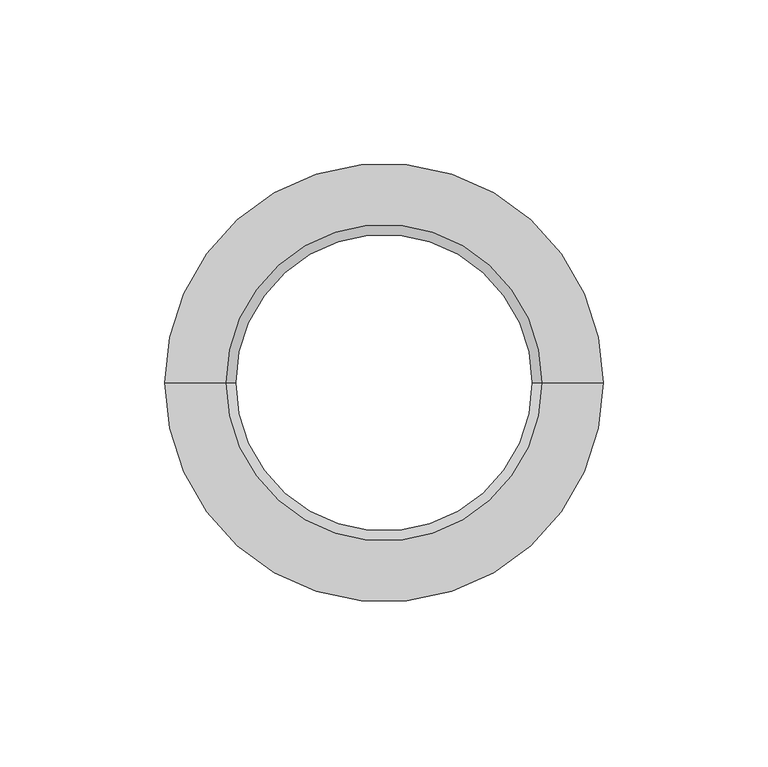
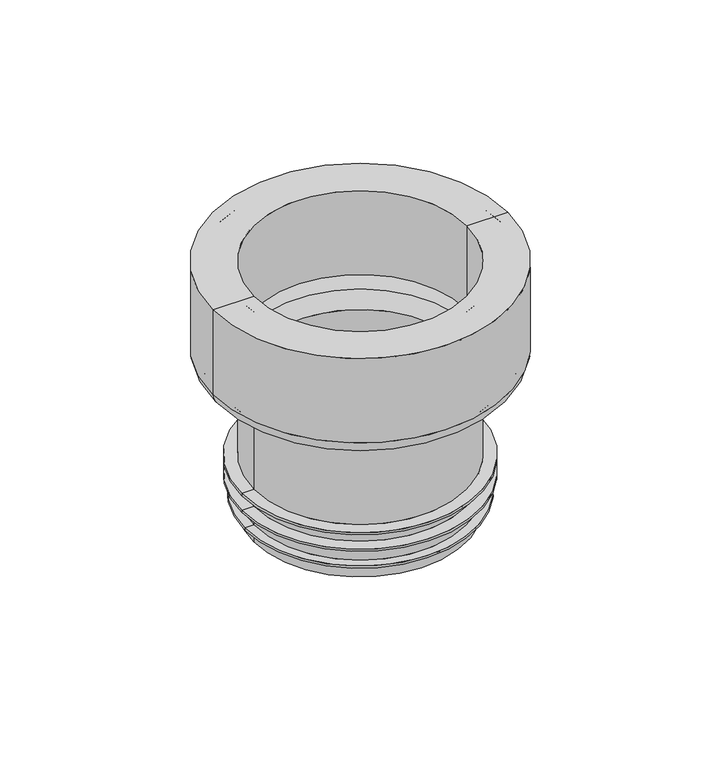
"""IFC4 building model written with IfcOpenShell, lengths in millimetres: sanitary terminal geometry, RSen_52_PIF_UN_closet connector no.6 w_wisa : closet connector_wisa_no 6 w white."""

from ifc_helpers import new_model, si_unit, point, frame, origin, origin_with_axes, place, context, project, spatial, polyline, circle_curve, ellipse_curve, trimmed, source, transform, mapped, element, save
from ifc_brep_helpers import plane_surface, cylinder_surface, revolved_surface, advanced_brep


def sanitary_terminal_0b93c952(model_context):
    return source(origin(), model_context, "Body", "AdvancedBrep", [
        advanced_brep(
        [(-52.0, 0.0, -110.0), (52.0, 0.0, -110.0), (48.0, 0.0, -110.0), (-48.0, 0.0, -110.0), (-52.0, 0.0, -109.0), (52.0, 0.0, -109.0), (-48.0, 0.0, -109.0), (48.0, 0.0, -109.0), (-48.0, 0.0, -101.0), (48.0, 0.0, -101.0), (-53.5, 0.0, -101.0), (53.5, 0.0, -101.0), (-53.5, 0.0, -100.0363869), (53.5, 0.0, -100.0363869), (-48.0, 0.0, -100.0363869), (48.0, 0.0, -100.0363869), (-48.0, 0.0, -93.0363869), (48.0, 0.0, -93.0363869), (-53.5, 0.0, -93.0363869), (53.5, 0.0, -93.0363869), (-53.5, 0.0, -92.0409026), (53.5, 0.0, -92.0409026), (-48.0, 0.0, -92.0409026), (48.0, 0.0, -92.0409026), (-48.0, 0.0, -54.6145387), (48.0, 0.0, -54.6145387), (-66.5, 0.0, 0.0), (66.5, 0.0, 0.0), (66.5, 0.0, -40.1788064), (-66.5, 0.0, -40.1788064), (-48.0, 0.0, 0.0), (48.0, 0.0, 0.0), (-48.0, 0.0, -40.0), (48.0, 0.0, -40.0), (-48.0, 0.0, -117.0), (48.0, 0.0, -117.0), (45.0, 0.0, -117.0), (-45.0, 0.0, -117.0), (-51.0, 0.0, -40.0), (51.0, 0.0, -40.0), (-51.0, 0.0, -4.5), (51.0, 0.0, -4.5), (-52.5, 0.0, -3.0), (52.5, 0.0, -3.0), (-62.0, 0.0, -3.0), (62.0, 0.0, -3.0), (-63.5, 0.0, -4.5), (63.5, 0.0, -4.5), (-63.5, 0.0, -40.1788064), (63.5, 0.0, -40.1788064), (45.0, 0.0, -54.6145387), (-45.0, 0.0, -54.6145387), (-50.6319194, 0.0, -50.8557682), (50.6319194, 0.0, -50.8557682), (-61.894141, 0.0, -46.7566547), (61.894141, 0.0, -46.7566547), (-60.8680806, 0.0, -43.9375769), (60.8680806, 0.0, -43.9375769), (-49.605859, 0.0, -48.0366903), (49.605859, 0.0, -48.0366903)],
        [
            (0, 1, circle_curve(frame((0.0, 0.0, -110.0), z_axis=(0.0, 0.0, -1.0), x_axis=(1.0, 0.0, 0.0)), 52.0)),
            (1, 2),
            (2, 3, circle_curve(frame((0.0, 0.0, -110.0), z_axis=(0.0, 0.0, 1.0), x_axis=(1.0, 0.0, 0.0)), 48.0)),
            (3, 0),
            (1, 0, circle_curve(frame((0.0, 0.0, -110.0), z_axis=(0.0, 0.0, -1.0), x_axis=(1.0, 0.0, 0.0)), 52.0)),
            (3, 2, circle_curve(frame((0.0, 0.0, -110.0), z_axis=(0.0, 0.0, 1.0), x_axis=(1.0, 0.0, 0.0)), 48.0)),
            (4, 5, circle_curve(frame((0.0, 0.0, -109.0), z_axis=(0.0, 0.0, -1.0), x_axis=(1.0, 0.0, 0.0)), 52.0)),
            (5, 1),
            (0, 4),
            (5, 4, circle_curve(frame((0.0, 0.0, -109.0), z_axis=(0.0, 0.0, -1.0), x_axis=(1.0, 0.0, 0.0)), 52.0)),
            (6, 7, circle_curve(frame((0.0, 0.0, -109.0), z_axis=(0.0, 0.0, -1.0), x_axis=(1.0, 0.0, 0.0)), 48.0)),
            (7, 5),
            (4, 6),
            (7, 6, circle_curve(frame((0.0, 0.0, -109.0), z_axis=(0.0, 0.0, -1.0), x_axis=(1.0, 0.0, 0.0)), 48.0)),
            (8, 9, circle_curve(frame((0.0, 0.0, -101.0), z_axis=(0.0, 0.0, -1.0), x_axis=(1.0, 0.0, 0.0)), 48.0)),
            (9, 7),
            (6, 8),
            (9, 8, circle_curve(frame((0.0, 0.0, -101.0), z_axis=(0.0, 0.0, -1.0), x_axis=(1.0, 0.0, 0.0)), 48.0)),
            (10, 11, circle_curve(frame((0.0, 0.0, -101.0), z_axis=(0.0, 0.0, -1.0), x_axis=(1.0, 0.0, 0.0)), 53.5)),
            (11, 9),
            (8, 10),
            (11, 10, circle_curve(frame((0.0, 0.0, -101.0), z_axis=(0.0, 0.0, -1.0), x_axis=(1.0, 0.0, 0.0)), 53.5)),
            (12, 13, circle_curve(frame((0.0, 0.0, -100.0363869), z_axis=(0.0, 0.0, -1.0), x_axis=(1.0, 0.0, 0.0)), 53.5)),
            (13, 11),
            (10, 12),
            (13, 12, circle_curve(frame((0.0, 0.0, -100.0363869), z_axis=(0.0, 0.0, -1.0), x_axis=(1.0, 0.0, 0.0)), 53.5)),
            (14, 15, circle_curve(frame((0.0, 0.0, -100.0363869), z_axis=(0.0, 0.0, -1.0), x_axis=(1.0, 0.0, 0.0)), 48.0)),
            (15, 13),
            (12, 14),
            (15, 14, circle_curve(frame((0.0, 0.0, -100.0363869), z_axis=(0.0, 0.0, -1.0), x_axis=(1.0, 0.0, 0.0)), 48.0)),
            (16, 17, circle_curve(frame((0.0, 0.0, -93.0363869), z_axis=(0.0, 0.0, -1.0), x_axis=(1.0, 0.0, 0.0)), 48.0)),
            (17, 15),
            (14, 16),
            (17, 16, circle_curve(frame((0.0, 0.0, -93.0363869), z_axis=(0.0, 0.0, -1.0), x_axis=(1.0, 0.0, 0.0)), 48.0)),
            (18, 19, circle_curve(frame((0.0, 0.0, -93.0363869), z_axis=(0.0, 0.0, -1.0), x_axis=(1.0, 0.0, 0.0)), 53.5)),
            (19, 17),
            (16, 18),
            (19, 18, circle_curve(frame((0.0, 0.0, -93.0363869), z_axis=(0.0, 0.0, -1.0), x_axis=(1.0, 0.0, 0.0)), 53.5)),
            (20, 21, circle_curve(frame((0.0, 0.0, -92.0409026), z_axis=(0.0, 0.0, -1.0), x_axis=(1.0, 0.0, 0.0)), 53.5)),
            (21, 19),
            (18, 20),
            (21, 20, circle_curve(frame((0.0, 0.0, -92.0409026), z_axis=(0.0, 0.0, -1.0), x_axis=(1.0, 0.0, 0.0)), 53.5)),
            (22, 23, circle_curve(frame((0.0, 0.0, -92.0409026), z_axis=(0.0, 0.0, -1.0), x_axis=(1.0, 0.0, 0.0)), 48.0)),
            (23, 21),
            (20, 22),
            (23, 22, circle_curve(frame((0.0, 0.0, -92.0409026), z_axis=(0.0, 0.0, -1.0), x_axis=(1.0, 0.0, 0.0)), 48.0)),
            (24, 25, circle_curve(frame((0.0, 0.0, -54.6145387), z_axis=(0.0, 0.0, -1.0), x_axis=(1.0, 0.0, 0.0)), 48.0)),
            (25, 23),
            (22, 24),
            (25, 24, circle_curve(frame((0.0, 0.0, -54.6145387), z_axis=(0.0, 0.0, -1.0), x_axis=(1.0, 0.0, 0.0)), 48.0)),
            (26, 27, circle_curve(frame((0.0, 0.0, 0.0), z_axis=(0.0, 0.0, -1.0), x_axis=(1.0, 0.0, 0.0)), 66.5)),
            (27, 28),
            (28, 29, circle_curve(frame((0.0, 0.0, -40.1788064), z_axis=(0.0, 0.0, 1.0), x_axis=(1.0, 0.0, 0.0)), 66.5)),
            (29, 26),
            (27, 26, circle_curve(frame((0.0, 0.0, 0.0), z_axis=(0.0, 0.0, -1.0), x_axis=(1.0, 0.0, 0.0)), 66.5)),
            (29, 28, circle_curve(frame((0.0, 0.0, -40.1788064), z_axis=(0.0, 0.0, 1.0), x_axis=(1.0, 0.0, 0.0)), 66.5)),
            (30, 31, circle_curve(frame((0.0, 0.0, 0.0), z_axis=(0.0, 0.0, -1.0), x_axis=(1.0, 0.0, 0.0)), 48.0)),
            (31, 27),
            (26, 30),
            (31, 30, circle_curve(frame((0.0, 0.0, 0.0), z_axis=(0.0, 0.0, -1.0), x_axis=(1.0, 0.0, 0.0)), 48.0)),
            (32, 33, circle_curve(frame((0.0, 0.0, -40.0), z_axis=(0.0, 0.0, -1.0), x_axis=(1.0, 0.0, 0.0)), 48.0)),
            (33, 31),
            (30, 32),
            (33, 32, circle_curve(frame((0.0, 0.0, -40.0), z_axis=(0.0, 0.0, -1.0), x_axis=(1.0, 0.0, 0.0)), 48.0)),
            (34, 35, circle_curve(frame((0.0, 0.0, -117.0), z_axis=(0.0, 0.0, -1.0), x_axis=(1.0, 0.0, 0.0)), 48.0)),
            (35, 36),
            (36, 37, circle_curve(frame((0.0, 0.0, -117.0), z_axis=(0.0, 0.0, 1.0), x_axis=(1.0, 0.0, 0.0)), 45.0)),
            (37, 34),
            (35, 34, circle_curve(frame((0.0, 0.0, -117.0), z_axis=(0.0, 0.0, -1.0), x_axis=(1.0, 0.0, 0.0)), 48.0)),
            (37, 36, circle_curve(frame((0.0, 0.0, -117.0), z_axis=(0.0, 0.0, 1.0), x_axis=(1.0, 0.0, 0.0)), 45.0)),
            (2, 35),
            (34, 3),
            (38, 39, circle_curve(frame((0.0, 0.0, -40.0), z_axis=(0.0, 0.0, -1.0), x_axis=(1.0, 0.0, 0.0)), 51.0)),
            (39, 33),
            (32, 38),
            (39, 38, circle_curve(frame((0.0, 0.0, -40.0), z_axis=(0.0, 0.0, -1.0), x_axis=(1.0, 0.0, 0.0)), 51.0)),
            (40, 41, circle_curve(frame((0.0, 0.0, -4.5), z_axis=(0.0, 0.0, -1.0), x_axis=(1.0, 0.0, 0.0)), 51.0)),
            (41, 39),
            (38, 40),
            (41, 40, circle_curve(frame((0.0, 0.0, -4.5), z_axis=(0.0, 0.0, -1.0), x_axis=(1.0, 0.0, 0.0)), 51.0)),
            (42, 43, circle_curve(frame((0.0, 0.0, -3.0), z_axis=(0.0, 0.0, -1.0), x_axis=(1.0, 0.0, 0.0)), 52.5)),
            (43, 41, circle_curve(frame((52.5, 0.0, -4.5), z_axis=(0.0, -1.0, 0.0), x_axis=(1.0, 0.0, 0.0)), 1.5)),
            (40, 42, circle_curve(frame((-52.5, 0.0, -4.5), z_axis=(0.0, -1.0, 0.0), x_axis=(-1.0, 0.0, 0.0)), 1.5)),
            (43, 42, circle_curve(frame((0.0, 0.0, -3.0), z_axis=(0.0, 0.0, -1.0), x_axis=(1.0, 0.0, 0.0)), 52.5)),
            (44, 45, circle_curve(frame((0.0, 0.0, -3.0), z_axis=(0.0, 0.0, -1.0), x_axis=(1.0, 0.0, 0.0)), 62.0)),
            (45, 43),
            (42, 44),
            (45, 44, circle_curve(frame((0.0, 0.0, -3.0), z_axis=(0.0, 0.0, -1.0), x_axis=(1.0, 0.0, 0.0)), 62.0)),
            (46, 47, circle_curve(frame((0.0, 0.0, -4.5), z_axis=(0.0, 0.0, -1.0), x_axis=(1.0, 0.0, 0.0)), 63.5)),
            (47, 45, circle_curve(frame((62.0, 0.0, -4.5), z_axis=(0.0, -1.0, 0.0), x_axis=(1.0, 0.0, 0.0)), 1.5)),
            (44, 46, circle_curve(frame((-62.0, 0.0, -4.5), z_axis=(0.0, -1.0, 0.0), x_axis=(-1.0, 0.0, 0.0)), 1.5)),
            (47, 46, circle_curve(frame((0.0, 0.0, -4.5), z_axis=(0.0, 0.0, -1.0), x_axis=(1.0, 0.0, 0.0)), 63.5)),
            (48, 49, circle_curve(frame((0.0, 0.0, -40.1788064), z_axis=(0.0, 0.0, -1.0), x_axis=(1.0, 0.0, 0.0)), 63.5)),
            (49, 47),
            (46, 48),
            (49, 48, circle_curve(frame((0.0, 0.0, -40.1788064), z_axis=(0.0, 0.0, -1.0), x_axis=(1.0, 0.0, 0.0)), 63.5)),
            (36, 50),
            (50, 51, circle_curve(frame((0.0, 0.0, -54.6145387), z_axis=(0.0, 0.0, 1.0), x_axis=(1.0, 0.0, 0.0)), 45.0)),
            (51, 37),
            (51, 50, circle_curve(frame((0.0, 0.0, -54.6145387), z_axis=(0.0, 0.0, 1.0), x_axis=(1.0, 0.0, 0.0)), 45.0)),
            (52, 53, circle_curve(frame((0.0, 0.0, -50.8557682), z_axis=(0.0, 0.0, -1.0), x_axis=(1.0, 0.0, 0.0)), 50.6319194)),
            (53, 25, circle_curve(frame((52.0, 0.0, -54.6145387), z_axis=(0.0, -1.0, 0.0), x_axis=(1.0, 0.0, 0.0)), 4.0)),
            (24, 52, circle_curve(frame((-52.0, 0.0, -54.6145387), z_axis=(0.0, -1.0, 0.0), x_axis=(-1.0, 0.0, 0.0)), 4.0)),
            (53, 52, circle_curve(frame((0.0, 0.0, -50.8557682), z_axis=(0.0, 0.0, -1.0), x_axis=(1.0, 0.0, 0.0)), 50.6319194)),
            (54, 55, circle_curve(frame((0.0, 0.0, -46.7566547), z_axis=(0.0, 0.0, -1.0), x_axis=(1.0, 0.0, 0.0)), 61.894141)),
            (55, 53),
            (52, 54),
            (55, 54, circle_curve(frame((0.0, 0.0, -46.7566547), z_axis=(0.0, 0.0, -1.0), x_axis=(1.0, 0.0, 0.0)), 61.894141)),
            (28, 55, circle_curve(frame((59.5, 0.0, -40.1788064), z_axis=(0.0, 1.0, 0.0), x_axis=(1.0, 0.0, 0.0)), 7.0)),
            (54, 29, circle_curve(frame((-59.5, 0.0, -40.1788064), z_axis=(0.0, 1.0, 0.0), x_axis=(-1.0, 0.0, 0.0)), 7.0)),
            (56, 57, circle_curve(frame((0.0, 0.0, -43.9375769), z_axis=(0.0, 0.0, -1.0), x_axis=(1.0, 0.0, 0.0)), 60.8680806)),
            (57, 49, circle_curve(frame((59.5, 0.0, -40.1788064), z_axis=(0.0, -1.0, 0.0), x_axis=(1.0, 0.0, 0.0)), 4.0)),
            (48, 56, circle_curve(frame((-59.5, 0.0, -40.1788064), z_axis=(0.0, -1.0, 0.0), x_axis=(-1.0, 0.0, 0.0)), 4.0)),
            (57, 56, circle_curve(frame((0.0, 0.0, -43.9375769), z_axis=(0.0, 0.0, -1.0), x_axis=(1.0, 0.0, 0.0)), 60.8680806)),
            (58, 59, circle_curve(frame((0.0, 0.0, -48.0366903), z_axis=(0.0, 0.0, -1.0), x_axis=(1.0, 0.0, 0.0)), 49.605859)),
            (59, 57),
            (56, 58),
            (59, 58, circle_curve(frame((0.0, 0.0, -48.0366903), z_axis=(0.0, 0.0, -1.0), x_axis=(1.0, 0.0, 0.0)), 49.605859)),
            (50, 59, circle_curve(frame((52.0, 0.0, -54.6145387), z_axis=(0.0, 1.0, 0.0), x_axis=(1.0, 0.0, 0.0)), 7.0)),
            (58, 51, circle_curve(frame((-52.0, 0.0, -54.6145387), z_axis=(0.0, 1.0, 0.0), x_axis=(-1.0, 0.0, 0.0)), 7.0)),
        ],
        [
            plane_surface(frame((0.0, 0.0, -110.0), z_axis=(0.0, 0.0, -1.0), x_axis=(1.0, 0.0, 0.0))),
            cylinder_surface(frame((0.0, 0.0, 150.0), z_axis=(0.0, 0.0, 1.0), x_axis=(1.0, 0.0, 0.0)), 52.0),
            plane_surface(frame((0.0, 0.0, -109.0), z_axis=(0.0, 0.0, 1.0), x_axis=(1.0, 0.0, 0.0))),
            cylinder_surface(frame((0.0, 0.0, 150.0), z_axis=(0.0, 0.0, 1.0), x_axis=(1.0, 0.0, 0.0)), 48.0),
            plane_surface(frame((0.0, 0.0, -101.0), z_axis=(0.0, 0.0, -1.0), x_axis=(1.0, 0.0, 0.0))),
            cylinder_surface(frame((0.0, 0.0, 150.0), z_axis=(0.0, 0.0, 1.0), x_axis=(1.0, 0.0, 0.0)), 53.5),
            plane_surface(frame((0.0, 0.0, -100.0363869), z_axis=(0.0, 0.0, 1.0), x_axis=(1.0, 0.0, 0.0))),
            plane_surface(frame((0.0, 0.0, -93.0363869), z_axis=(0.0, 0.0, -1.0), x_axis=(1.0, 0.0, 0.0))),
            plane_surface(frame((0.0, 0.0, -92.0409026), z_axis=(0.0, 0.0, 1.0), x_axis=(1.0, 0.0, 0.0))),
            cylinder_surface(frame((0.0, 0.0, 150.0), z_axis=(0.0, 0.0, 1.0), x_axis=(1.0, 0.0, 0.0)), 66.5),
            plane_surface(origin_with_axes()),
            revolved_surface(polyline([(48.0, 0.0, 0.0), (48.0, 0.0, -40.0)]), (0.0, 0.0, 150.0), (0.0, 0.0, 1.0)),
            plane_surface(frame((0.0, 0.0, -117.0), z_axis=(0.0, 0.0, -1.0), x_axis=(1.0, 0.0, 0.0))),
            plane_surface(frame((0.0, 0.0, -40.0), z_axis=(0.0, 0.0, -1.0), x_axis=(1.0, 0.0, 0.0))),
            cylinder_surface(frame((0.0, 0.0, 150.0), z_axis=(0.0, 0.0, 1.0), x_axis=(1.0, 0.0, 0.0)), 51.0),
            revolved_surface(trimmed(ellipse_curve(frame((52.5, 0.0, -4.5), z_axis=(0.0, 1.0, 0.0), x_axis=(1.0, 0.0, 0.0)), 1.5, 1.5), [point((51.0, 0.0, -4.5))], [point((52.5, 0.0, -3.0))], True, "CARTESIAN"), (0.0, 0.0, 150.0), (0.0, 0.0, 1.0)),
            plane_surface(frame((0.0, 0.0, -3.0), z_axis=(0.0, 0.0, -1.0), x_axis=(1.0, 0.0, 0.0))),
            revolved_surface(trimmed(ellipse_curve(frame((62.0, 0.0, -4.5), z_axis=(0.0, 1.0, 0.0), x_axis=(1.0, 0.0, 0.0)), 1.5, 1.5), [point((62.0, 0.0, -3.0))], [point((63.5, 0.0, -4.5))], True, "CARTESIAN"), (0.0, 0.0, 150.0), (0.0, 0.0, 1.0)),
            revolved_surface(polyline([(63.5, 0.0, -4.5), (63.5, 0.0, -40.178806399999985)]), (0.0, 0.0, 150.0), (0.0, 0.0, 1.0)),
            revolved_surface(polyline([(45.0, 0.0, -54.6145387), (45.0, 0.0, -117.0)]), (0.0, 0.0, 150.0), (0.0, 0.0, 1.0)),
            revolved_surface(trimmed(ellipse_curve(frame((52.0, 0.0, -54.6145387), z_axis=(0.0, 1.0, 0.0), x_axis=(1.0, 0.0, 0.0)), 4.0, 4.0), [point((48.0, 0.0, -54.6145387))], [point((50.6319194, 0.0, -50.8557682))], True, "CARTESIAN"), (0.0, 0.0, 150.0), (0.0, 0.0, 1.0)),
            revolved_surface(polyline([(50.6319194, 0.0, -50.8557682), (61.894141, 0.0, -46.7566547)]), (0.0, 0.0, 150.0), (0.0, 0.0, 1.0)),
            revolved_surface(trimmed(ellipse_curve(frame((59.5, 0.0, -40.1788064), z_axis=(0.0, -1.0, 0.0), x_axis=(1.0, 0.0, 0.0)), 7.0, 7.0), [point((61.894141, 0.0, -46.7566547))], [point((66.5, 0.0, -40.1788064))], True, "CARTESIAN"), (0.0, 0.0, 150.0), (0.0, 0.0, 1.0)),
            revolved_surface(trimmed(ellipse_curve(frame((59.5, 0.0, -40.1788064), z_axis=(0.0, 1.0, 0.0), x_axis=(1.0, 0.0, 0.0)), 4.0, 4.0), [point((63.5, 0.0, -40.1788064))], [point((60.8680806, 0.0, -43.9375769))], True, "CARTESIAN"), (0.0, 0.0, 150.0), (0.0, 0.0, 1.0)),
            revolved_surface(polyline([(60.8680806, 0.0, -43.9375769), (49.605859, 0.0, -48.0366903)]), (0.0, 0.0, 150.0), (0.0, 0.0, 1.0)),
            revolved_surface(trimmed(ellipse_curve(frame((52.0, 0.0, -54.6145387), z_axis=(0.0, -1.0, 0.0), x_axis=(1.0, 0.0, 0.0)), 7.0, 7.0), [point((49.605859, 0.0, -48.0366903))], [point((45.0, 0.0, -54.6145387))], True, "CARTESIAN"), (0.0, 0.0, 150.0), (0.0, 0.0, 1.0)),
        ],
        [
            (0, [[1, 2, 3, 4]]),
            (0, [[5, -4, 6, -2]]),
            (1, [[7, 8, -1, 9]]),
            (1, [[10, -9, -5, -8]]),
            (2, [[11, 12, -7, 13]]),
            (2, [[14, -13, -10, -12]]),
            (3, [[15, 16, -11, 17]]),
            (3, [[18, -17, -14, -16]]),
            (4, [[19, 20, -15, 21]]),
            (4, [[22, -21, -18, -20]]),
            (5, [[23, 24, -19, 25]]),
            (5, [[26, -25, -22, -24]]),
            (6, [[27, 28, -23, 29]]),
            (6, [[30, -29, -26, -28]]),
            (3, [[31, 32, -27, 33]]),
            (3, [[34, -33, -30, -32]]),
            (7, [[35, 36, -31, 37]]),
            (7, [[38, -37, -34, -36]]),
            (5, [[39, 40, -35, 41]]),
            (5, [[42, -41, -38, -40]]),
            (8, [[43, 44, -39, 45]]),
            (8, [[46, -45, -42, -44]]),
            (3, [[47, 48, -43, 49]]),
            (3, [[50, -49, -46, -48]]),
            (9, [[51, 52, 53, 54]]),
            (9, [[55, -54, 56, -52]]),
            (10, [[57, 58, -51, 59]]),
            (10, [[60, -59, -55, -58]]),
            (11, [[61, 62, -57, 63]]),
            (11, [[64, -63, -60, -62]]),
            (12, [[65, 66, 67, 68]]),
            (12, [[69, -68, 70, -66]]),
            (3, [[-3, 71, -65, 72]]),
            (3, [[-6, -72, -69, -71]]),
            (13, [[73, 74, -61, 75]]),
            (13, [[76, -75, -64, -74]]),
            (14, [[77, 78, -73, 79]]),
            (14, [[80, -79, -76, -78]]),
            (15, [[81, 82, -77, 83]]),
            (15, [[84, -83, -80, -82]]),
            (16, [[85, 86, -81, 87]]),
            (16, [[88, -87, -84, -86]]),
            (17, [[89, 90, -85, 91]]),
            (17, [[92, -91, -88, -90]]),
            (18, [[93, 94, -89, 95]]),
            (18, [[96, -95, -92, -94]]),
            (19, [[-67, 97, 98, 99]]),
            (19, [[-70, -99, 100, -97]]),
            (20, [[101, 102, -47, 103]]),
            (20, [[104, -103, -50, -102]]),
            (21, [[105, 106, -101, 107]]),
            (21, [[108, -107, -104, -106]]),
            (22, [[-53, 109, -105, 110]]),
            (22, [[-56, -110, -108, -109]]),
            (23, [[111, 112, -93, 113]]),
            (23, [[114, -113, -96, -112]]),
            (24, [[115, 116, -111, 117]]),
            (24, [[118, -117, -114, -116]]),
            (25, [[-98, 119, -115, 120]]),
            (25, [[-100, -120, -118, -119]]),
        ],
    ),
    ])


if __name__ == "__main__":
    model = new_model("IFC4")
    model_context = context("Model", 3, world=origin())
    ifc_project = project(units=[si_unit("LENGTHUNIT", "METRE", prefix="MILLI")], contexts=[model_context])
    site = spatial("IfcSite", under=ifc_project)
    building = spatial("IfcBuilding", under=site)
    placement = place(None, origin())
    sanitary_terminal_shape = sanitary_terminal_0b93c952(model_context)
    element("IfcSanitaryTerminal", 1, ObjectType="RSen_52_PIF_UN_closet connector no.6 w_wisa : closet connector_wisa_no 6 w white", at=placement, inside=building, context=model_context, shape_type="MappedRepresentation", body=[
        mapped(sanitary_terminal_shape, transform((0.0, 0.0, 0.0), x_axis=(1.0, 0.0, 0.0), y_axis=(0.0, 1.0, 0.0), z_axis=(0.0, 0.0, 1.0))),
    ])
    save(model, "model.ifc")
